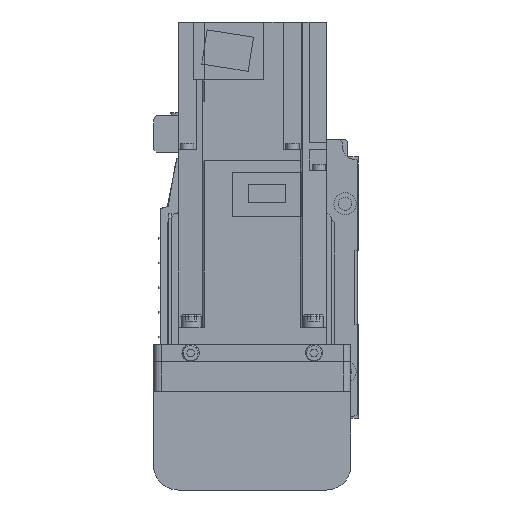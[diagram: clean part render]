
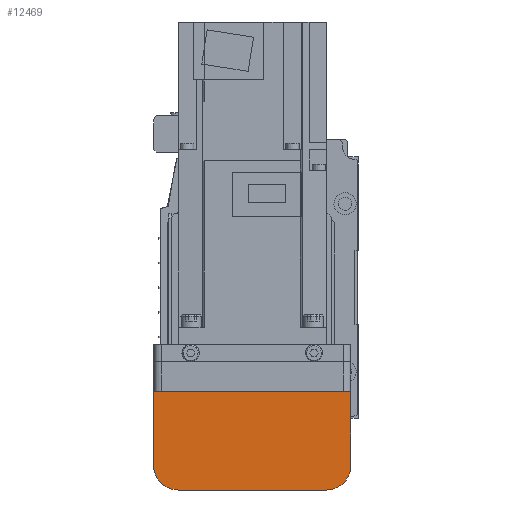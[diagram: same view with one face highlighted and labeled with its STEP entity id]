
A CAD part, left-side view. The second image highlights one B-rep face of the part: STEP entity #12469.
In plain terms, the highlighted planar face has unit normal (-1, 0, 0).
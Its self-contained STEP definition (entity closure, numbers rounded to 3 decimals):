
#479=CIRCLE('',#13423,10.);
#480=CIRCLE('',#13424,10.);
#2142=ORIENTED_EDGE('',*,*,#5045,.F.);
#2143=ORIENTED_EDGE('',*,*,#5046,.F.);
#2144=ORIENTED_EDGE('',*,*,#5047,.F.);
#2145=ORIENTED_EDGE('',*,*,#5048,.F.);
#2146=ORIENTED_EDGE('',*,*,#5049,.F.);
#2147=ORIENTED_EDGE('',*,*,#5050,.F.);
#5045=EDGE_CURVE('',#6603,#6599,#7873,.T.);
#5046=EDGE_CURVE('',#6615,#6603,#7874,.T.);
#5047=EDGE_CURVE('',#6616,#6615,#479,.T.);
#5048=EDGE_CURVE('',#6617,#6616,#7875,.T.);
#5049=EDGE_CURVE('',#6618,#6617,#480,.T.);
#5050=EDGE_CURVE('',#6599,#6618,#7876,.T.);
#6599=VERTEX_POINT('',#19471);
#6603=VERTEX_POINT('',#19481);
#6615=VERTEX_POINT('',#19510);
#6616=VERTEX_POINT('',#19512);
#6617=VERTEX_POINT('',#19514);
#6618=VERTEX_POINT('',#19516);
#7873=LINE('',#19508,#9101);
#7874=LINE('',#19509,#9102);
#7875=LINE('',#19513,#9103);
#7876=LINE('',#19517,#9104);
#9101=VECTOR('',#15664,1000.);
#9102=VECTOR('',#15665,1000.);
#9103=VECTOR('',#15668,1000.);
#9104=VECTOR('',#15671,1000.);
#10156=EDGE_LOOP('',(#2142,#2143,#2144,#2145,#2146,#2147));
#11110=FACE_BOUND('',#10156,.T.);
#11907=PLANE('',#13422);
#12469=ADVANCED_FACE('',(#11110),#11907,.F.);
#13422=AXIS2_PLACEMENT_3D('',#19507,#15662,#15663);
#13423=AXIS2_PLACEMENT_3D('',#19511,#15666,#15667);
#13424=AXIS2_PLACEMENT_3D('',#19515,#15669,#15670);
#15662=DIRECTION('',(1.,0.,0.));
#15663=DIRECTION('',(0.,0.,-1.));
#15664=DIRECTION('',(0.,-1.,0.));
#15665=DIRECTION('',(0.,0.,1.));
#15666=DIRECTION('',(1.,0.,0.));
#15667=DIRECTION('',(0.,0.,-1.));
#15668=DIRECTION('',(0.,1.,0.));
#15669=DIRECTION('',(1.,0.,0.));
#15670=DIRECTION('',(0.,0.,-1.));
#15671=DIRECTION('',(0.,0.,-1.));
#19471=CARTESIAN_POINT('',(-192.,-40.,-12.1));
#19481=CARTESIAN_POINT('',(-192.,40.,-12.1));
#19507=CARTESIAN_POINT('',(-192.,37.,7.));
#19508=CARTESIAN_POINT('',(-192.,50.,-12.1));
#19509=CARTESIAN_POINT('',(-192.,40.,-42.));
#19510=CARTESIAN_POINT('',(-192.,40.,-42.));
#19511=CARTESIAN_POINT('',(-192.,30.,-42.));
#19512=CARTESIAN_POINT('',(-192.,30.,-52.));
#19513=CARTESIAN_POINT('',(-192.,-30.,-52.));
#19514=CARTESIAN_POINT('',(-192.,-30.,-52.));
#19515=CARTESIAN_POINT('',(-192.,-30.,-42.));
#19516=CARTESIAN_POINT('',(-192.,-40.,-42.));
#19517=CARTESIAN_POINT('',(-192.,-40.,-12.1));
